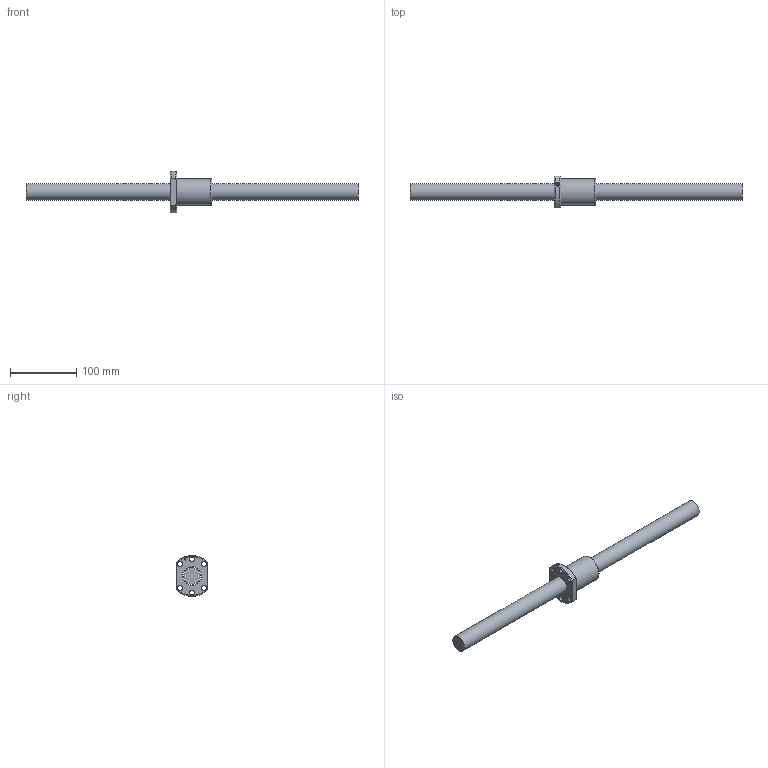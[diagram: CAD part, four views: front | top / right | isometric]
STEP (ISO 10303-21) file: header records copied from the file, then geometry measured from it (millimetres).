
FILE_DESCRIPTION (( 'STEP AP203' ), '1' );
FILE_NAME ('SFU02508D-4.step', '2024-05-14T07:04:48', ( '' ), ( '' ), 'SwSTEP 2.0', 'SolidWorks 2022', '' );
FILE_SCHEMA (( 'CONFIG_CONTROL_DESIGN' ));
Length unit declared in the file: millimetre
Products named in the file (1): SFU02508D-4
Bounding box: 500 x 48 x 61.8 mm (x, y, z)
Volume: 298182.8 mm3; surface area: 59118.1 mm2
Topology: 2 solids, 2 shells, 54 faces, 132 edges, 83 vertices
Faces by surface type: cylinder 19, cone 13, plane 12, bspline 5, torus 5
Full cylindrical faces by diameter (mm): 4 x1, 5 x6, 6.6 x6, 25 x1, 27.6 x1, 40 x1
Entity records: 3149 total; most frequent: CARTESIAN_POINT 2113, DIRECTION 186, ORIENTED_EDGE 166, EDGE_LOOP 90, AXIS2_PLACEMENT_3D 85, EDGE_CURVE 83, VERTEX_POINT 67, FACE_OUTER_BOUND 60
